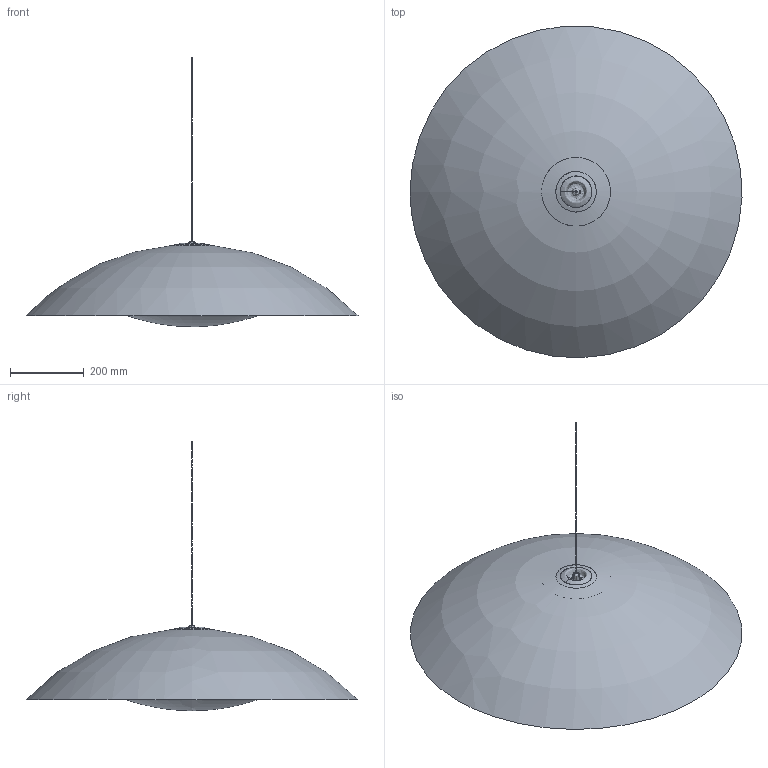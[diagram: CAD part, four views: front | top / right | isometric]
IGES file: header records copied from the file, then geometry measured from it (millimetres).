
Start section: SolidWorks IGES file using analytic representation for surfaces OMNICAD :convertitore Iges OMNICAD :convertitore Iges  Autodesk Maya version 8.5 Service Pack 1 IGES version 5.3
Global section: file name: E:\Modelli 3D Kartell_3dd\Prodotti Revisione 1_3dd\da controllare_3dd\9090\Neutra_3d_Ferruccio Laviani_Kartell.igs; native system: Rhinoceros ( Mar 10 2014 ); preprocessor: Trout Lake IGES 012 Mar 10 2014; date: 180210.105527; units: millimetre
Bounding box: 899.69 x 898.79 x 729.74 mm (x, y, z)
Surface area: 2916077.7 mm2 (no closed solid volume)
Topology: 0 solids, 0 shells, 99 faces, 766 edges, 738 vertices
Faces by surface type: bspline 99
